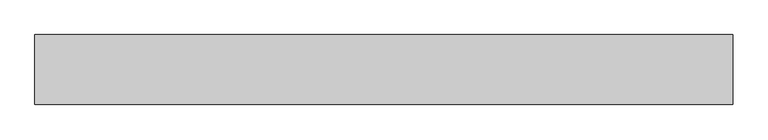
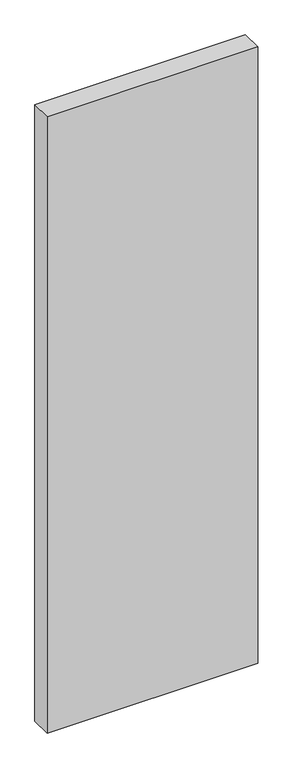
"""IFC4 building model written with IfcOpenShell, lengths in millimetres: proxy geometry."""

from ifc_helpers import new_model, si_unit, origin, origin_with_axes, place, context, project, spatial, polyline, outline, extrude, source, transform, mapped, element, save


def generic_models_b2fff6ee(model_context):
    return source(origin(), model_context, "Body", "SweptSolid", [
        extrude(outline(polyline([(1000.0, 0.0), (0.0, 0.0), (0.0, 100.0), (1000.0, 100.0), (1000.0, 0.0)])), origin_with_axes(), (0.0, 0.0, 1.0), 3095.0),
    ])


if __name__ == "__main__":
    model = new_model("IFC4")
    model_context = context("Model", 3, world=origin())
    ifc_project = project(units=[si_unit("LENGTHUNIT", "METRE", prefix="MILLI")], contexts=[model_context])
    site = spatial("IfcSite", under=ifc_project)
    building = spatial("IfcBuilding", under=site)
    placement = place(None, origin())
    generic_models_shape = generic_models_b2fff6ee(model_context)
    element("IfcBuildingElementProxy", 1, Name="Generic Models", at=placement, inside=building, context=model_context, shape_type="MappedRepresentation", body=[
        mapped(generic_models_shape, transform((0.0, 0.0, 0.0), x_axis=(1.0, 0.0, 0.0), y_axis=(0.0, 1.0, 0.0), z_axis=(0.0, 0.0, 1.0))),
    ])
    save(model, "model.ifc")
